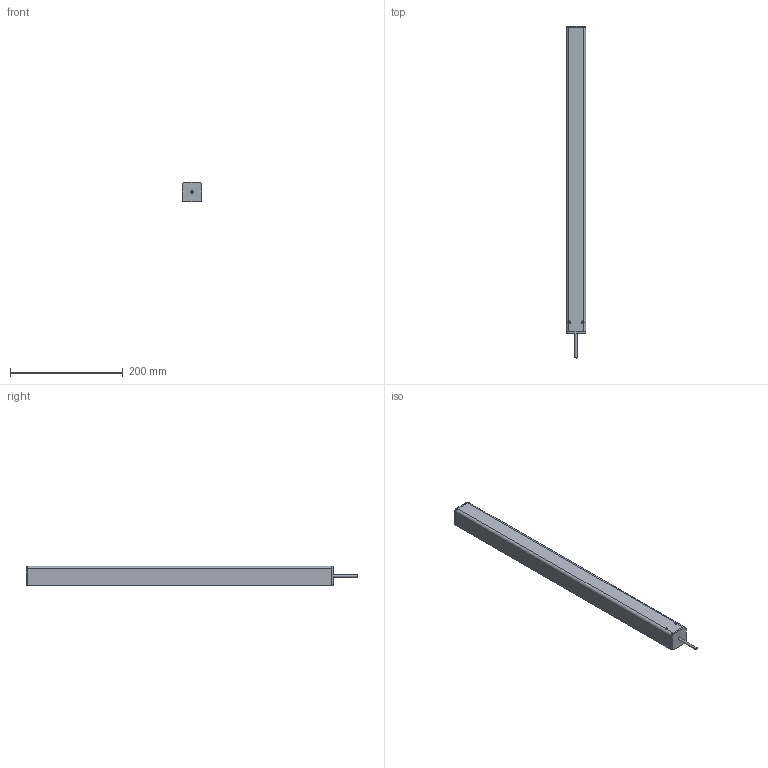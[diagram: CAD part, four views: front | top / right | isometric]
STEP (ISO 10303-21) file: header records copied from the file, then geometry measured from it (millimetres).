
FILE_DESCRIPTION(/* description */ ('Unknown'),/* implementation_level */ '2;1');
FILE_NAME(/* name */ '106.00004 Lineareinheit LA 1440_eingefahren',/* time_stamp */ '2017-08-23T16:40:12+02:00',/* author */ ('Unknown'),/* organization */ ('Unknown'),/* preprocessor_version */ 'ST-DEVELOPER v16.7',/* originating_system */ 'DEX',/* authorisation */ $);
FILE_SCHEMA (('AUTOMOTIVE_DESIGN {1 0 10303 214 3 1 1}'));
Products named in the file (9): 106.00004; 119.00004; 142.00014; 115.00001; 142.00011; 122.00018; 125.00051; 123.00004; 113.00002_70mm
Assembly tree (9 placements, depth 2):
  106.00004
    119.00004
    142.00014  x2
    115.00001
    142.00011
    122.00018
    125.00051
    123.00004
    113.00002_70mm
Bounding box: 35 x 588.5 x 35 mm (x, y, z)
Volume: 366183.3 mm3; surface area: 246650.4 mm2
Topology: 8 solids, 8 shells, 776 faces, 1818 edges, 1082 vertices
Faces by surface type: cylinder 273, bspline 224, plane 204, cone 36, torus 27, sphere 12
Full cylindrical faces by diameter (mm): 2.2 x1, 4 x7, 4.134 x4, 5 x1, 6.647 x1, 8.376 x1, 17.3 x1, 19 x1, 20.8 x3, 21 x1, 25 x1, 28.3 x1, 30.4 x1, 30.63 x1
Entity records: 74513 total; most frequent: CARTESIAN_POINT 58862, ORIENTED_EDGE 3422, DIRECTION 2541, EDGE_CURVE 1711, VERTEX_POINT 1037, AXIS2_PLACEMENT_3D 983, EDGE_LOOP 858, FACE_BOUND 858
